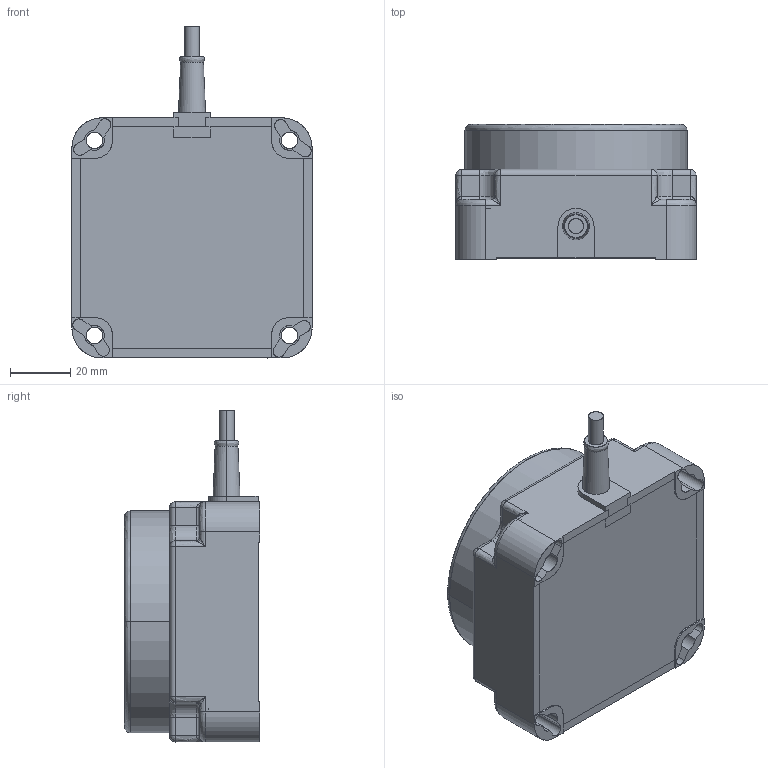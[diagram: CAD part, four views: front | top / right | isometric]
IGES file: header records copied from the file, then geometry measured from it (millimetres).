
Start section: SolidWorks IGES file using analytic representation for surfaces
Global section: file name: C:\Users\10118109\Desktop\辟立季辑\1瞒 犁累己_2瞒 累诀_荐沥 器窃\AS80-50D\AS80-50DN3_AS80-50DP3.IGS, 15HSolidWorks; native system: 2018; preprocessor: SolidWorks 2018; author: 10118109; date: 190605.101634; units: millimetre
Bounding box: 80 x 45 x 110.6 mm (x, y, z)
Surface area: 27962.8 mm2 (no closed solid volume)
Topology: 0 solids, 0 shells, 190 faces, 2152 edges, 2132 vertices
Faces by surface type: revolution 103, bspline 87
